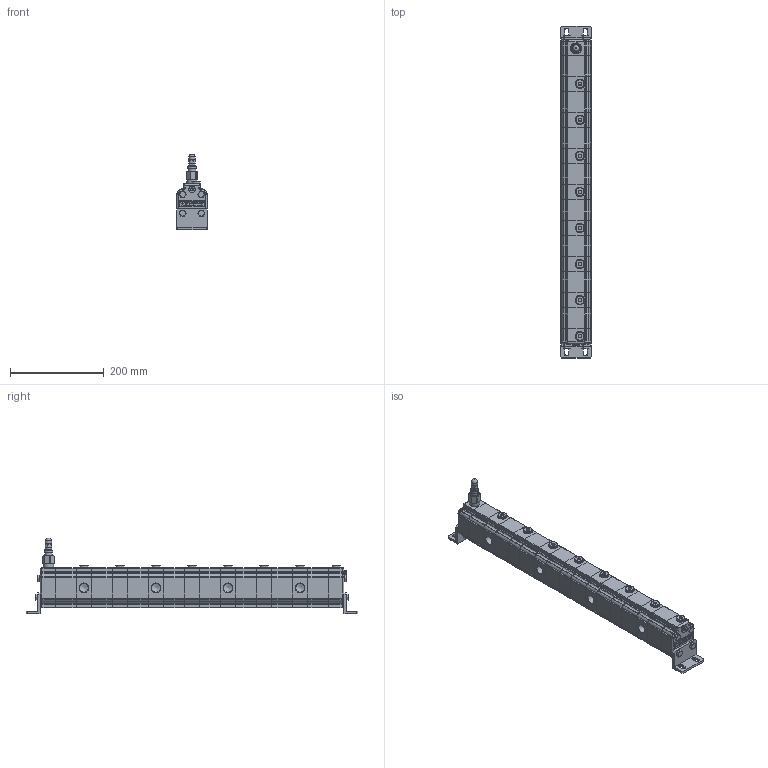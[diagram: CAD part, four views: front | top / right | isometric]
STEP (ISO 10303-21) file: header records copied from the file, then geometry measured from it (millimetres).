
FILE_DESCRIPTION(/* description */ ('Unknown'),/* implementation_level */ '2;1');
FILE_NAME(/* name */ '9RS08-18',/* time_stamp */ '2020-04-14T19:43:24+02:00',/* author */ ('Unknown'),/* organization */ ('Unknown'),/* preprocessor_version */ 'ST-DEVELOPER v16.7',/* originating_system */ 'DEX',/* authorisation */ $);
FILE_SCHEMA (('AP242_MANAGED_MODEL_BASED_3D_ENGINEERING_MIM_LF { 1 0 10303 442 1 1 4 }','AUTOMOTIVE_DESIGN {1 0 10303 214 3 1 1}'));
Products named in the file (1): RV-1S
Bounding box: 66 x 709 x 161.5 mm (x, y, z)
Volume: 3173213.5 mm3; surface area: 226810.9 mm2
Topology: 2 solids, 2 shells, 1547 faces, 4220 edges, 2723 vertices
Faces by surface type: cylinder 738, plane 606, cone 98, bspline 64, torus 41
Full cylindrical faces by diameter (mm): 10 x1, 12 x8, 13 x1, 14 x1, 14.1 x1, 14.95 x16, 17 x1, 18 x9, 18.631 x9, 19 x8, 22 x1, 23 x1
Entity records: 65411 total; most frequent: CARTESIAN_POINT 15675, DIRECTION 8351, ORIENTED_EDGE 8024, EDGE_CURVE 4012, AXIS2_PLACEMENT_3D 3126, VERTEX_POINT 2671, LINE 2099, VECTOR 2099
